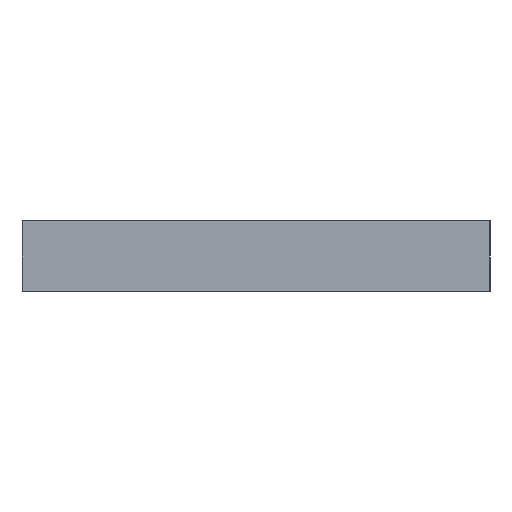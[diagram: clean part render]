
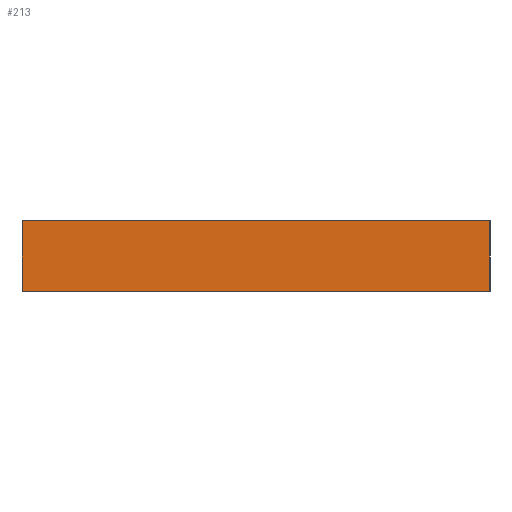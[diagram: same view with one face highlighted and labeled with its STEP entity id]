
A CAD part, left-side view. The second image highlights one B-rep face of the part: STEP entity #213.
In plain terms, the highlighted planar face has unit normal (-1, 0, 0).
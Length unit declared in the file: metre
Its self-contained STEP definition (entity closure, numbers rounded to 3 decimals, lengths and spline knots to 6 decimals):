
#21=LINE('',#344,#33);
#22=LINE('',#346,#34);
#23=LINE('',#348,#35);
#24=LINE('',#350,#36);
#33=VECTOR('',#280,1.);
#34=VECTOR('',#283,1.);
#35=VECTOR('',#284,1.);
#36=VECTOR('',#285,1.);
#52=ORIENTED_EDGE('',*,*,#99,.T.);
#53=ORIENTED_EDGE('',*,*,#100,.T.);
#54=ORIENTED_EDGE('',*,*,#101,.F.);
#55=ORIENTED_EDGE('',*,*,#102,.F.);
#99=EDGE_CURVE('',#121,#123,#21,.T.);
#100=EDGE_CURVE('',#123,#124,#22,.T.);
#101=EDGE_CURVE('',#125,#124,#23,.T.);
#102=EDGE_CURVE('',#121,#125,#24,.T.);
#121=VERTEX_POINT('',#339);
#123=VERTEX_POINT('',#343);
#124=VERTEX_POINT('',#347);
#125=VERTEX_POINT('',#349);
#153=EDGE_LOOP('',(#52,#53,#54,#55));
#183=FACE_BOUND('',#153,.T.);
#207=PLANE('',#244);
#213=ADVANCED_FACE('',(#183),#207,.F.);
#244=AXIS2_PLACEMENT_3D('',#345,#281,#282);
#280=DIRECTION('',(0.,-1.,0.));
#281=DIRECTION('',(1.,0.,0.));
#282=DIRECTION('',(0.,1.,0.));
#283=DIRECTION('',(0.,0.,1.));
#284=DIRECTION('',(0.,-1.,0.));
#285=DIRECTION('',(0.,0.,1.));
#339=CARTESIAN_POINT('',(-0.145,-0.164,0.04001));
#343=CARTESIAN_POINT('',(-0.145,-0.194,0.04001));
#344=CARTESIAN_POINT('',(-0.145,-0.179,0.04001));
#345=CARTESIAN_POINT('',(-0.145,-0.099,0.04001));
#346=CARTESIAN_POINT('',(-0.145,-0.194,0.04226));
#347=CARTESIAN_POINT('',(-0.145,-0.194,0.04451));
#348=CARTESIAN_POINT('',(-0.145,-0.179,0.04451));
#349=CARTESIAN_POINT('',(-0.145,-0.164,0.04451));
#350=CARTESIAN_POINT('',(-0.145,-0.164,0.04226));
